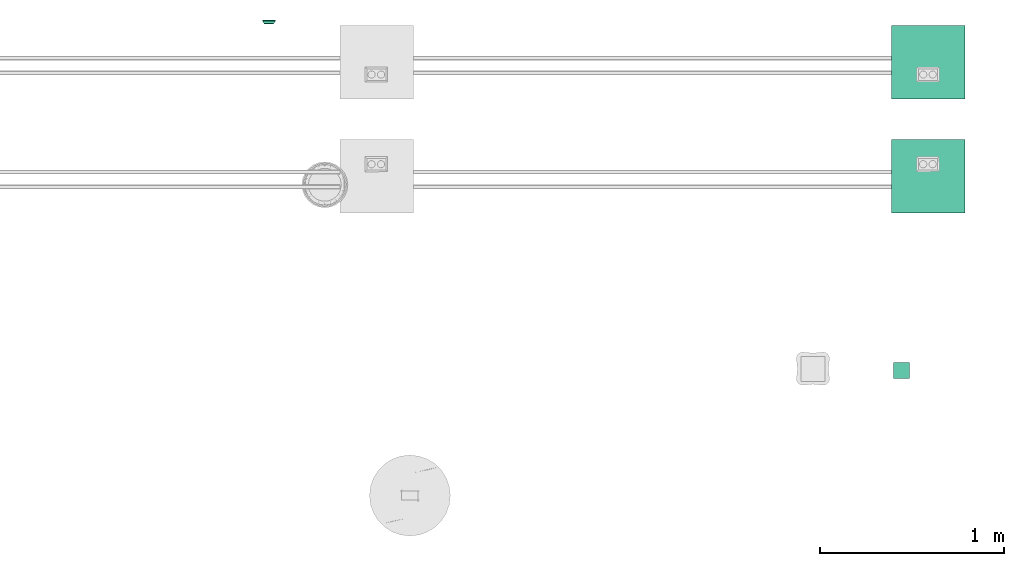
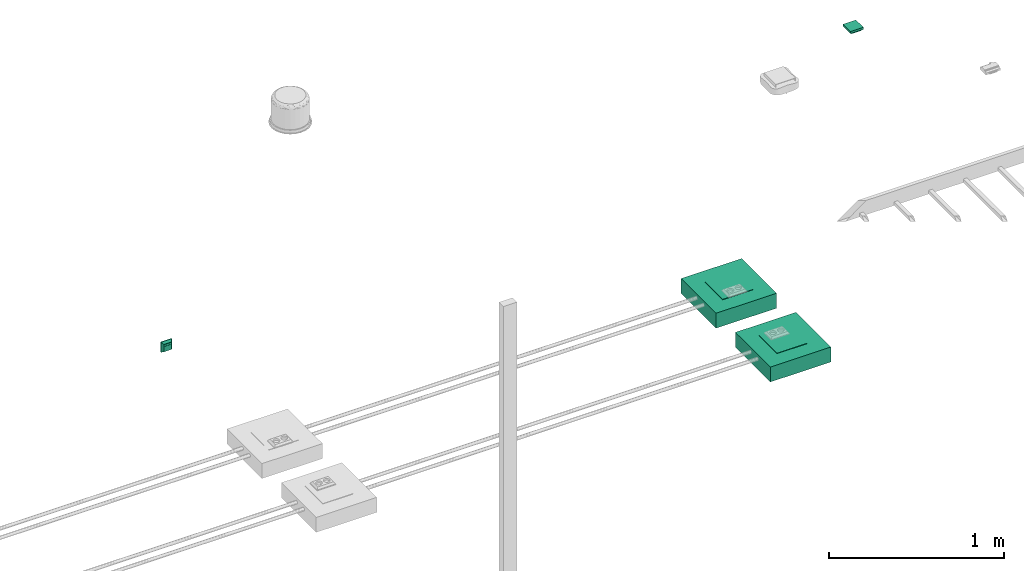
# One storey, part 19 of 24: 4 flow terminals.
"""IFC2X3 building model written with IfcOpenShell, lengths in millimetres."""

from ifc_helpers import new_model, entity, si_unit, converted_unit, derived_unit, direction, frame, origin_with_axes, place, context, subcontext, project, spatial, open_shell, surface_model, source, transform, mapped, type_object, element, save


model = new_model("IFC2X3")

# Units and contexts
model_context = context("Model", 3, precision=0.01, world=frame((0.0, 4.29681676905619e-09, 0.0)), true_north=direction((4.01073788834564e-13, 1.0)))
plan_context = context("Plan", 3, precision=0.01, world=frame((0.0, 4.29681676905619e-09, 0.0)), true_north=direction((4.01073788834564e-13, 1.0)))
body_context = subcontext(model_context, "Body", "Model", "MODEL_VIEW")
ifc_project = project(units=[converted_unit("PLANEANGLEUNIT", "DEGREE", entity("IfcPositiveLengthMeasure", 0.0174532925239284), si_unit("PLANEANGLEUNIT", "RADIAN"), dimensions=[0, 0, 0, 0, 0, 0, 0]), si_unit("AREAUNIT", "SQUARE_METRE"), si_unit("LENGTHUNIT", "METRE", prefix="MILLI"), si_unit("MASSUNIT", "GRAM", prefix="KILO"), si_unit("POWERUNIT", "WATT"), si_unit("PRESSUREUNIT", "PASCAL"), si_unit("FORCEUNIT", "NEWTON", prefix="KILO"), si_unit("ELECTRICVOLTAGEUNIT", "VOLT"), si_unit("ELECTRICCURRENTUNIT", "AMPERE"), si_unit("THERMODYNAMICTEMPERATUREUNIT", "DEGREE_CELSIUS"), si_unit("TIMEUNIT", "SECOND"), si_unit("VOLUMEUNIT", "CUBIC_METRE"), derived_unit("LINEARVELOCITYUNIT", [(si_unit("LENGTHUNIT", "METRE"), 1), (si_unit("TIMEUNIT", "SECOND"), -1)]), derived_unit("VOLUMETRICFLOWRATEUNIT", [(si_unit("VOLUMEUNIT", "CUBIC_METRE"), 1), (si_unit("TIMEUNIT", "SECOND"), -1)]), derived_unit("THERMALTRANSMITTANCEUNIT", [(si_unit("POWERUNIT", "WATT"), 1), (si_unit("THERMODYNAMICTEMPERATUREUNIT", "KELVIN"), -1), (si_unit("AREAUNIT", "SQUARE_METRE"), -1)]), derived_unit("SOUNDPRESSUREUNIT", [(si_unit("PRESSUREUNIT", "PASCAL"), 1)])], contexts=[model_context, plan_context])

# Site, building, storey
site_placement = place(None, frame((0.0, -4.29681676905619e-09, 0.0), z_axis=(0.0, 0.0, 1.0), x_axis=(1.0, 0.0, 0.0)))
site = spatial("IfcSite", under=ifc_project, at=site_placement, Name="ENGM", CompositionType="ELEMENT")
building_placement = place(site_placement, frame((0.0, 4.29681676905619e-09, 0.0), z_axis=(0.0, 0.0, 1.0), x_axis=(1.0, 0.0, 0.0)))
building = spatial("IfcBuilding", under=site, at=building_placement, Name="TH", CompositionType="ELEMENT")
storey_placement = place(building_placement, frame((0.0, 0.0, 210200.0), z_axis=(0.0, 0.0, 1.0), x_axis=(1.0, 0.0, 0.0)))
storey = spatial("IfcBuildingStorey", under=building, at=storey_placement, Name="Nivå F - 0,7 m", CompositionType="ELEMENT", Elevation=210200.0)

# Flow terminals
electric_appliance_type = type_object("IfcElectricApplianceType", Name="Gulvboks 400x400", PredefinedType="NOTDEFINED")
shared_shape_1 = source(origin_with_axes(), body_context, "Body", "SurfaceModel", [
    surface_model("IfcShellBasedSurfaceModel", [(199.96, -199.96, -8.96812), (199.96, 200.0, -8.96812), (-200.0, 200.0, -8.96812), (-200.0, -199.96, -8.96812), (-200.0, -199.96, -108.96812), (-200.0, 200.0, -108.96812), (199.96, -199.96, -108.96812), (199.96, 200.0, -108.96812), (99.91278, -102.96181, -1.48406), (99.91278, 100.0, -1.48406), (-100.0, -102.96181, -1.48406), (-100.0, 100.0, -1.48406), (-100.0, -102.96181, -4.48406), (-100.0, 100.0, -4.48406), (99.91278, 100.0, -4.48406), (99.91278, -102.96181, -4.48406), (199.96, -199.96, -4.48406), (199.96, 200.0, -4.48406), (-200.0, 200.0, -4.48406), (-200.0, -199.96, -4.48406), (-200.0, -199.96, -104.48406), (-200.0, 200.0, -104.48406), (199.96, -199.96, -104.48406), (199.96, 200.0, -104.48406)], [open_shell([[[0, 1, 2]], [[2, 3, 0]], [[4, 5, 6]], [[7, 6, 5]], [[2, 1, 7]], [[7, 5, 2]], [[3, 2, 5]], [[5, 4, 3]], [[0, 3, 4]], [[4, 6, 0]], [[1, 0, 6]], [[6, 7, 1]], [[8, 9, 10]], [[11, 10, 9]], [[12, 13, 14]], [[14, 15, 12]], [[11, 9, 14]], [[14, 13, 11]], [[10, 11, 13]], [[13, 12, 10]], [[8, 10, 12]], [[12, 15, 8]], [[9, 8, 15]], [[15, 14, 9]], [[16, 17, 18]], [[18, 19, 16]], [[20, 21, 22]], [[23, 22, 21]], [[18, 17, 23]], [[23, 21, 18]], [[19, 18, 21]], [[21, 20, 19]], [[16, 19, 20]], [[20, 22, 16]], [[17, 16, 22]], [[22, 23, 17]]])]),
])
for number, where, z_axis, x_axis, name in (
    (1, (909999.725, 486999.56407, 1.5), (0.0, 0.0, 1.0), (1.0, 0.0, 0.0), "Gulvboks 400x400"),
    (2, (909999.725, 486379.56407, 1.5), (0.0, 0.0, 1.0), (1.0, 0.0, 0.0), "Gulvboks 400x400"),
):
    element("IfcFlowTerminal", number, at=place(storey_placement, frame(where, z_axis=z_axis, x_axis=x_axis)), inside=storey, type_object=electric_appliance_type, Name=name, context=body_context, shape_type="MappedRepresentation", body=[
        mapped(shared_shape_1, transform((0.0, 0.0, 0.0), scale=1.0)),
    ])
outlet_type_1 = type_object("IfcOutletType", Name="Datauttak dobbel Tak - WLAN", PredefinedType="COMMUNICATIONSOUTLET")
shared_shape_2 = source(origin_with_axes(), body_context, "Body", "SurfaceModel", [
    surface_model("IfcShellBasedSurfaceModel", [(42.5, 42.4761, -11.68863), (32.5, 32.48658, -21.6991), (-42.5, 42.4761, -11.68863), (-32.5, 32.48658, -21.6991), (-42.5, 42.33453, -11.54735), (-32.5, 32.34501, -21.55782), (42.5, 42.33453, -11.54735), (32.5, 32.34501, -21.55782), (42.5, -42.524, -11.63622), (32.5, -32.51353, -21.62574), (-42.5, -42.524, -11.63622), (-32.5, -32.51353, -21.62574), (-42.5, -42.66527, -11.77779), (-32.5, -32.65481, -21.76731), (42.5, -42.66527, -11.77779), (32.5, -32.65481, -21.76731), (-32.57071, -32.5841, -21.76724), (-42.57071, -42.59456, -11.77771), (-32.57071, 32.41587, -21.69917), (-42.57071, 42.40539, -11.6887), (-32.42929, 32.41572, -21.55775), (-42.42929, 42.40524, -11.54728), (-32.42929, -32.58424, -21.62581), (-42.42929, -42.59471, -11.63629), (32.42929, -32.58424, -21.62581), (42.42929, -42.59471, -11.63629), (32.42929, 32.41572, -21.55775), (42.42929, 42.40524, -11.54728), (32.57071, 32.41587, -21.69917), (42.57071, 42.40539, -11.6887), (32.57071, -32.5841, -21.76724), (42.57071, -42.59456, -11.77771), (42.4, -42.59463, -11.707), (42.4, -42.59987, -6.70701), (42.4, 42.40532, -11.61799), (42.4, 42.40008, -6.61799), (42.6, 42.40532, -11.61799), (42.6, 42.40008, -6.61799), (42.6, -42.59463, -11.707), (42.6, -42.59987, -6.70701), (-42.5, -42.69987, -6.70711), (-42.5, -42.69464, -11.70711), (42.5, -42.69987, -6.70711), (42.5, -42.69464, -11.70711), (42.5, -42.49987, -6.7069), (42.5, -42.49464, -11.7069), (-42.5, -42.49987, -6.7069), (-42.5, -42.49464, -11.7069), (-42.6, -42.59463, -11.707), (-42.6, -42.59987, -6.70701), (-42.6, 42.40532, -11.61799), (-42.6, 42.40008, -6.61799), (-42.4, 42.40532, -11.61799), (-42.4, 42.40008, -6.61799), (-42.4, -42.59463, -11.707), (-42.4, -42.59987, -6.70701), (-42.5, -42.59998, -6.60701), (42.5, -42.59998, -6.60701), (42.5, 42.39998, -6.51799), (-42.5, 42.39998, -6.51799), (-42.5, 42.40019, -6.71799), (42.5, 42.40019, -6.71799), (42.5, -42.59977, -6.80701), (-42.5, -42.59977, -6.80701), (-42.5, 42.30008, -6.6181), (-42.5, 42.30532, -11.6181), (42.5, 42.30008, -6.6181), (42.5, 42.30532, -11.6181), (42.5, 42.50008, -6.61789), (42.5, 42.50532, -11.61789), (-42.5, 42.50008, -6.61789), (-42.5, 42.50532, -11.61789), (-32.5, -32.58427, -21.59653), (32.5, -32.58427, -21.59653), (32.5, 32.41569, -21.52846), (-32.5, 32.41569, -21.52846), (-32.5, 32.4159, -21.72846), (32.5, 32.4159, -21.72846), (-32.5, -32.58406, -21.79653), (32.5, -32.58406, -21.79653), (-17.5, 0.41781, -23.57197), (-2.5, 0.41781, -23.57197), (-2.5, 15.4178, -23.55626), (-17.5, 15.4178, -23.55626), (-17.5, 15.41801, -23.75626), (-2.5, 15.41801, -23.75626), (-17.5, 0.41802, -23.77197), (-2.5, 0.41802, -23.77197), (2.5, 0.41781, -23.57197), (17.5, 0.41781, -23.57197), (17.5, 15.4178, -23.55626), (2.5, 15.4178, -23.55626), (2.5, 15.41801, -23.75626), (17.5, 15.41801, -23.75626), (2.5, 0.41802, -23.77197), (17.5, 0.41802, -23.77197), (-32.5, 32.41789, -23.62846), (-32.5, 32.41579, -21.62846), (32.5, 32.41789, -23.62846), (32.5, 32.41579, -21.62846), (32.5, 27.41789, -23.63369), (32.5, 27.4158, -21.63369), (-32.5, 27.41789, -23.63369), (-32.5, 27.4158, -21.63369), (-32.5, 17.4179, -23.64416), (-32.5, 17.4158, -21.64417), (32.5, 17.4179, -23.64416), (32.5, 17.4158, -21.64417), (32.5, -32.58208, -23.69652), (32.5, -32.58417, -21.69652), (-32.5, -32.58208, -23.69652), (-32.5, -32.58417, -21.69652), (42.4, -42.59463, 2.0), (42.4, 42.30008, 2.0), (-42.5, 42.30008, 2.0), (-42.5, -42.59463, 2.0), (-42.5, -42.59463, -6.6181), (42.4, 42.30008, -6.6181), (42.4, -42.59463, -6.6181)], [open_shell([[[0, 1, 2]], [[3, 2, 1]], [[4, 5, 6]], [[7, 6, 5]], [[3, 1, 5]], [[7, 5, 1]], [[2, 3, 5]], [[5, 4, 2]], [[0, 2, 4]], [[4, 6, 0]], [[1, 0, 6]], [[6, 7, 1]], [[8, 9, 10]], [[11, 10, 9]], [[12, 13, 14]], [[15, 14, 13]], [[11, 9, 13]], [[15, 13, 9]], [[10, 11, 13]], [[13, 12, 10]], [[8, 10, 12]], [[12, 14, 8]], [[9, 8, 14]], [[14, 15, 9]], [[16, 17, 18]], [[19, 18, 17]], [[20, 21, 22]], [[23, 22, 21]], [[19, 17, 23]], [[23, 21, 19]], [[18, 19, 21]], [[21, 20, 18]], [[16, 18, 20]], [[20, 22, 16]], [[17, 16, 22]], [[22, 23, 17]], [[24, 25, 26]], [[27, 26, 25]], [[28, 29, 30]], [[31, 30, 29]], [[27, 25, 31]], [[31, 29, 27]], [[26, 27, 28]], [[29, 28, 27]], [[24, 26, 28]], [[28, 30, 24]], [[25, 24, 30]], [[30, 31, 25]], [[32, 33, 34]], [[35, 34, 33]], [[36, 37, 38]], [[39, 38, 37]], [[35, 33, 39]], [[39, 37, 35]], [[34, 35, 36]], [[37, 36, 35]], [[32, 34, 36]], [[36, 38, 32]], [[33, 32, 39]], [[38, 39, 32]], [[40, 41, 42]], [[43, 42, 41]], [[44, 45, 46]], [[47, 46, 45]], [[41, 40, 46]], [[46, 47, 41]], [[40, 42, 44]], [[44, 46, 40]], [[42, 43, 45]], [[45, 44, 42]], [[43, 41, 47]], [[47, 45, 43]], [[48, 49, 50]], [[51, 50, 49]], [[52, 53, 54]], [[55, 54, 53]], [[51, 49, 55]], [[55, 53, 51]], [[50, 51, 52]], [[53, 52, 51]], [[48, 50, 52]], [[52, 54, 48]], [[49, 48, 55]], [[54, 55, 48]], [[56, 57, 58]], [[58, 59, 56]], [[60, 61, 62]], [[62, 63, 60]], [[58, 57, 62]], [[62, 61, 58]], [[59, 58, 61]], [[61, 60, 59]], [[56, 59, 60]], [[60, 63, 56]], [[57, 56, 63]], [[63, 62, 57]], [[64, 65, 66]], [[67, 66, 65]], [[68, 69, 70]], [[71, 70, 69]], [[65, 64, 70]], [[70, 71, 65]], [[64, 66, 68]], [[68, 70, 64]], [[66, 67, 69]], [[69, 68, 66]], [[67, 65, 71]], [[71, 69, 67]], [[72, 73, 74]], [[74, 75, 72]], [[76, 77, 78]], [[79, 78, 77]], [[74, 73, 79]], [[79, 77, 74]], [[75, 74, 77]], [[77, 76, 75]], [[72, 75, 78]], [[76, 78, 75]], [[73, 72, 78]], [[78, 79, 73]], [[80, 81, 82]], [[82, 83, 80]], [[84, 85, 86]], [[87, 86, 85]], [[82, 81, 85]], [[87, 85, 81]], [[83, 82, 85]], [[85, 84, 83]], [[80, 83, 86]], [[84, 86, 83]], [[81, 80, 86]], [[86, 87, 81]], [[88, 89, 90]], [[90, 91, 88]], [[92, 93, 94]], [[95, 94, 93]], [[90, 89, 93]], [[95, 93, 89]], [[91, 90, 93]], [[93, 92, 91]], [[88, 91, 94]], [[92, 94, 91]], [[89, 88, 94]], [[94, 95, 89]], [[96, 97, 98]], [[99, 98, 97]], [[100, 101, 102]], [[103, 102, 101]], [[99, 97, 103]], [[103, 101, 99]], [[98, 99, 101]], [[101, 100, 98]], [[96, 98, 100]], [[100, 102, 96]], [[97, 96, 103]], [[102, 103, 96]], [[104, 105, 106]], [[107, 106, 105]], [[108, 109, 110]], [[111, 110, 109]], [[107, 105, 111]], [[111, 109, 107]], [[106, 107, 109]], [[109, 108, 106]], [[104, 106, 108]], [[108, 110, 104]], [[105, 104, 110]], [[110, 111, 105]], [[112, 113, 114]], [[114, 115, 112]], [[116, 64, 117]], [[117, 118, 116]], [[114, 113, 117]], [[117, 64, 114]], [[115, 114, 64]], [[64, 116, 115]], [[112, 115, 116]], [[116, 118, 112]], [[113, 112, 118]], [[118, 117, 113]]])]),
])
flow_terminal_1_placement = place(storey_placement, frame((909853.11015, 485322.54823, 2880.0), z_axis=(0.0, 0.0, 1.0), x_axis=(1.0, 0.0, 0.0)))
element("IfcFlowTerminal", 3, at=flow_terminal_1_placement, inside=storey, type_object=outlet_type_1, Name="Datauttak dobbel Tak - WLAN", context=body_context, shape_type="MappedRepresentation", body=[
    mapped(shared_shape_2, transform((0.0, 0.0, 0.0), scale=1.0)),
])
outlet_type_2 = type_object("IfcOutletType", Name="Datauttak dobbel Vegg - IKT", PredefinedType="COMMUNICATIONSOUTLET")
shared_shape_3 = source(origin_with_axes(), body_context, "Body", "SurfaceModel", [
    surface_model("IfcShellBasedSurfaceModel", [(35.5, 5.05547, 35.5832), (25.5, 20.05547, 25.5832), (-35.5, 5.05547, 35.5832), (-25.5, 20.05547, 25.5832), (-35.5, 4.94453, 35.41679), (-25.5, 19.94453, 25.41679), (25.5, 19.94453, 25.41679), (35.5, 4.94453, 35.41679), (35.5, 4.94453, -35.41679), (25.5, 19.94453, -25.41679), (-35.5, 4.94453, -35.41679), (-25.5, 19.94453, -25.41679), (-35.5, 5.05547, -35.5832), (-25.5, 20.05547, -25.5832), (25.5, 20.05547, -25.5832), (35.5, 5.05547, -35.5832), (-25.5832, 20.05547, -25.5), (-35.5832, 5.05547, -35.5), (-35.5832, 5.05547, 35.5), (-25.5832, 20.05547, 25.5), (-25.41679, 19.94453, 25.5), (-35.41679, 4.94453, 35.5), (-25.41679, 19.94453, -25.5), (-35.41679, 4.94453, -35.5), (25.41679, 19.94453, -25.5), (35.41679, 4.94453, -35.5), (35.41679, 4.94453, 35.5), (25.41679, 19.94453, 25.5), (25.5832, 20.05547, 25.5), (35.5832, 5.05547, 35.5), (25.5832, 20.05547, -25.5), (35.5832, 5.05547, -35.5), (35.4, 5.0, -35.5), (35.4, 0.0, -35.5), (35.4, 0.0, 35.5), (35.4, 5.0, 35.5), (35.6, 5.0, 35.5), (35.6, 0.0, 35.5), (35.6, 0.0, -35.5), (35.6, 5.0, -35.5), (-35.5, 0.0, -35.6), (-35.5, 5.0, -35.6), (35.5, 5.0, -35.6), (35.5, 0.0, -35.6), (35.5, 0.0, -35.4), (35.5, 5.0, -35.4), (-35.5, 5.0, -35.4), (-35.5, 0.0, -35.4), (-35.6, 5.0, -35.5), (-35.6, 0.0, -35.5), (-35.6, 0.0, 35.5), (-35.6, 5.0, 35.5), (-35.4, 5.0, 35.5), (-35.4, 0.0, 35.5), (-35.4, 0.0, -35.5), (-35.4, 5.0, -35.5), (-35.5, -0.1, -35.5), (35.5, -0.1, -35.5), (35.5, -0.1, 35.5), (-35.5, -0.1, 35.5), (-35.5, 0.1, 35.5), (35.5, 0.1, 35.5), (35.5, 0.1, -35.5), (-35.5, 0.1, -35.5), (-35.5, 0.0, 35.4), (-35.5, 5.0, 35.4), (35.5, 5.0, 35.4), (35.5, 0.0, 35.4), (35.5, 0.0, 35.6), (35.5, 5.0, 35.6), (-35.5, 5.0, 35.6), (-35.5, 0.0, 35.6), (-25.5, 19.9, -25.5), (25.5, 19.9, -25.5), (25.5, 19.9, 25.5), (-25.5, 19.9, 25.5), (-25.5, 20.1, 25.5), (25.5, 20.1, 25.5), (25.5, 20.1, -25.5), (-25.5, 20.1, -25.5), (-17.5, 21.91, -6.5), (-2.5, 21.91, -6.5), (-17.5, 21.91, 8.5), (-2.5, 21.91, 8.5), (-17.5, 22.11, 8.5), (-2.5, 22.11, 8.5), (-17.5, 22.11, -6.5), (-2.5, 22.11, -6.5), (2.5, 21.91, -6.5), (17.5, 21.91, -6.5), (17.5, 21.91, 8.5), (2.5, 21.91, 8.5), (2.5, 22.11, 8.5), (17.5, 22.11, 8.5), (2.5, 22.11, -6.5), (17.5, 22.11, -6.5), (-25.5, 22.0, 25.5), (-25.5, 20.0, 25.5), (25.5, 20.0, 25.5), (25.5, 22.0, 25.5), (25.5, 22.0, 20.5), (25.5, 20.0, 20.5), (-25.5, 20.0, 20.5), (-25.5, 22.0, 20.5), (-25.5, 22.0, 10.5), (-25.5, 20.0, 10.5), (25.5, 20.0, 10.5), (25.5, 22.0, 10.5), (25.5, 22.0, -25.5), (25.5, 20.0, -25.5), (-25.5, 20.0, -25.5), (-25.5, 22.0, -25.5)], [open_shell([[[0, 1, 2]], [[3, 2, 1]], [[4, 5, 6]], [[6, 7, 4]], [[3, 1, 6]], [[6, 5, 3]], [[2, 3, 4]], [[5, 4, 3]], [[0, 2, 7]], [[4, 7, 2]], [[1, 0, 6]], [[7, 6, 0]], [[8, 9, 10]], [[11, 10, 9]], [[12, 13, 14]], [[14, 15, 12]], [[11, 9, 14]], [[14, 13, 11]], [[10, 11, 12]], [[13, 12, 11]], [[8, 10, 12]], [[12, 15, 8]], [[9, 8, 14]], [[15, 14, 8]], [[16, 17, 18]], [[18, 19, 16]], [[20, 21, 22]], [[23, 22, 21]], [[18, 17, 23]], [[23, 21, 18]], [[19, 18, 20]], [[21, 20, 18]], [[16, 19, 20]], [[20, 22, 16]], [[17, 16, 22]], [[22, 23, 17]], [[24, 25, 26]], [[26, 27, 24]], [[28, 29, 30]], [[31, 30, 29]], [[26, 25, 31]], [[31, 29, 26]], [[27, 26, 28]], [[29, 28, 26]], [[24, 27, 28]], [[28, 30, 24]], [[25, 24, 30]], [[30, 31, 25]], [[32, 33, 34]], [[34, 35, 32]], [[36, 37, 38]], [[38, 39, 36]], [[34, 33, 38]], [[38, 37, 34]], [[35, 34, 37]], [[37, 36, 35]], [[32, 35, 36]], [[36, 39, 32]], [[33, 32, 39]], [[39, 38, 33]], [[40, 41, 42]], [[42, 43, 40]], [[44, 45, 46]], [[46, 47, 44]], [[42, 41, 46]], [[46, 45, 42]], [[43, 42, 45]], [[45, 44, 43]], [[40, 43, 44]], [[44, 47, 40]], [[41, 40, 47]], [[47, 46, 41]], [[48, 49, 50]], [[50, 51, 48]], [[52, 53, 54]], [[54, 55, 52]], [[50, 49, 54]], [[54, 53, 50]], [[51, 50, 53]], [[53, 52, 51]], [[48, 51, 52]], [[52, 55, 48]], [[49, 48, 55]], [[55, 54, 49]], [[56, 57, 58]], [[58, 59, 56]], [[60, 61, 62]], [[62, 63, 60]], [[58, 57, 62]], [[62, 61, 58]], [[59, 58, 61]], [[61, 60, 59]], [[56, 59, 60]], [[60, 63, 56]], [[57, 56, 63]], [[63, 62, 57]], [[64, 65, 66]], [[66, 67, 64]], [[68, 69, 70]], [[70, 71, 68]], [[66, 65, 70]], [[70, 69, 66]], [[67, 66, 69]], [[69, 68, 67]], [[64, 67, 68]], [[68, 71, 64]], [[65, 64, 71]], [[71, 70, 65]], [[72, 73, 74]], [[74, 75, 72]], [[76, 77, 78]], [[78, 79, 76]], [[74, 73, 78]], [[78, 77, 74]], [[75, 74, 77]], [[77, 76, 75]], [[72, 75, 76]], [[76, 79, 72]], [[73, 72, 79]], [[79, 78, 73]], [[80, 81, 82]], [[83, 82, 81]], [[84, 85, 86]], [[87, 86, 85]], [[83, 81, 87]], [[87, 85, 83]], [[82, 83, 85]], [[85, 84, 82]], [[80, 82, 84]], [[84, 86, 80]], [[81, 80, 86]], [[86, 87, 81]], [[88, 89, 90]], [[90, 91, 88]], [[92, 93, 94]], [[95, 94, 93]], [[90, 89, 95]], [[95, 93, 90]], [[91, 90, 93]], [[93, 92, 91]], [[88, 91, 92]], [[92, 94, 88]], [[89, 88, 94]], [[94, 95, 89]], [[96, 97, 98]], [[98, 99, 96]], [[100, 101, 102]], [[102, 103, 100]], [[98, 97, 102]], [[102, 101, 98]], [[99, 98, 101]], [[101, 100, 99]], [[96, 99, 100]], [[100, 103, 96]], [[97, 96, 103]], [[103, 102, 97]], [[104, 105, 106]], [[106, 107, 104]], [[108, 109, 110]], [[110, 111, 108]], [[106, 105, 110]], [[110, 109, 106]], [[107, 106, 109]], [[109, 108, 107]], [[104, 107, 108]], [[108, 111, 104]], [[105, 104, 111]], [[111, 110, 105]]])]),
])
flow_terminal_2_placement = place(storey_placement, frame((906412.58742, 487228.81682, 700.0), z_axis=(0.0, 0.0, 1.0), x_axis=(-1.0, 0.0, 0.0)))
element("IfcFlowTerminal", 4, at=flow_terminal_2_placement, inside=storey, type_object=outlet_type_2, Name="Datauttak dobbel Vegg - IKT", context=body_context, shape_type="MappedRepresentation", body=[
    mapped(shared_shape_3, transform((0.0, 0.0, 0.0), scale=1.0)),
])

save(model, "model.ifc")
